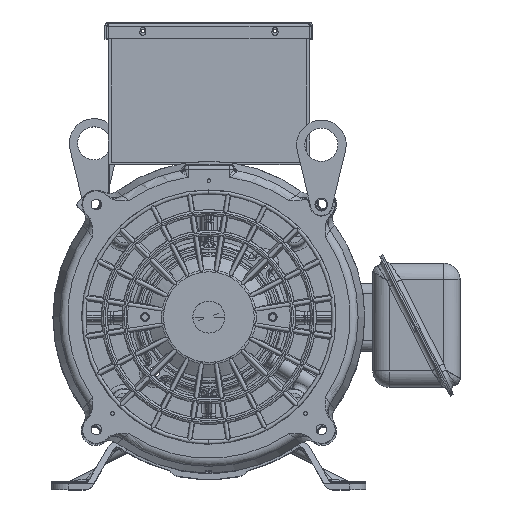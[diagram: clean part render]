
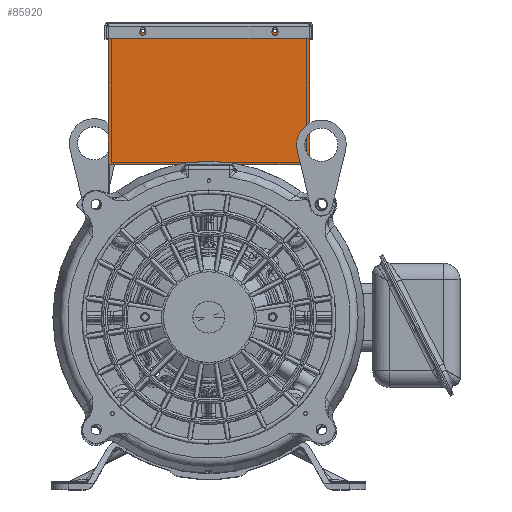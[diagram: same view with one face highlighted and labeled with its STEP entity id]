
A CAD part, top view. The second image highlights one B-rep face of the part: STEP entity #85920.
In plain terms, the highlighted planar face has unit normal (0, 0, 1) as drawn and (-1, 0, 0) by its records, which use the part's own axes.
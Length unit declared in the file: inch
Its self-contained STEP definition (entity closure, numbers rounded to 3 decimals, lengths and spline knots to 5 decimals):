
#85119=DIRECTION('',(0.,0.,1.));
#85120=VECTOR('',#85119,6.);
#85121=CARTESIAN_POINT('',(-4.485,4.25,-3.));
#85122=LINE('',#85121,#85120);
#85139=CARTESIAN_POINT('',(-4.485,0.19,2.));
#85140=DIRECTION('',(1.,0.,0.));
#85141=DIRECTION('',(0.,1.,0.));
#85142=AXIS2_PLACEMENT_3D('',#85139,#85140,#85141);
#85144=CARTESIAN_POINT('',(-4.485,0.19,2.));
#85145=DIRECTION('',(1.,0.,0.));
#85146=DIRECTION('',(0.,-1.,0.));
#85147=AXIS2_PLACEMENT_3D('',#85144,#85145,#85146);
#85149=CARTESIAN_POINT('',(-4.485,0.19,-2.));
#85150=DIRECTION('',(1.,0.,0.));
#85151=DIRECTION('',(0.,1.,0.));
#85152=AXIS2_PLACEMENT_3D('',#85149,#85150,#85151);
#85154=CARTESIAN_POINT('',(-4.485,0.19,-2.));
#85155=DIRECTION('',(1.,0.,0.));
#85156=DIRECTION('',(0.,-1.,0.));
#85157=AXIS2_PLACEMENT_3D('',#85154,#85155,#85156);
#85159=DIRECTION('',(0.,-0.669,0.743));
#85160=VECTOR('',#85159,0.04576);
#85161=CARTESIAN_POINT('',(-4.485,6.27255,3.84941));
#85162=LINE('',#85161,#85160);
#85163=DIRECTION('',(0.,-0.743,-0.669));
#85164=VECTOR('',#85163,1.25);
#85165=CARTESIAN_POINT('',(-4.485,6.24193,3.88341));
#85166=LINE('',#85165,#85164);
#85167=DIRECTION('',(0.,1.,0.));
#85168=VECTOR('',#85167,5.313);
#85169=CARTESIAN_POINT('',(-4.485,0.,3.047));
#85170=LINE('',#85169,#85168);
#85171=DIRECTION('',(0.,0.,-1.));
#85172=VECTOR('',#85171,6.094);
#85173=CARTESIAN_POINT('',(-4.485,0.,3.047));
#85174=LINE('',#85173,#85172);
#85175=DIRECTION('',(0.,-1.,0.));
#85176=VECTOR('',#85175,5.313);
#85177=CARTESIAN_POINT('',(-4.485,5.313,-3.047));
#85178=LINE('',#85177,#85176);
#85179=DIRECTION('',(0.,0.743,-0.669));
#85180=VECTOR('',#85179,1.25);
#85181=CARTESIAN_POINT('',(-4.485,5.313,-3.047));
#85182=LINE('',#85181,#85180);
#85183=DIRECTION('',(0.,0.669,0.743));
#85184=VECTOR('',#85183,0.04576);
#85185=CARTESIAN_POINT('',(-4.485,6.24193,-3.88341));
#85186=LINE('',#85185,#85184);
#85315=DIRECTION('',(0.,-0.743,-0.669));
#85316=VECTOR('',#85315,1.26942);
#85317=CARTESIAN_POINT('',(-4.485,6.27255,3.84941));
#85318=LINE('',#85317,#85316);
#85363=DIRECTION('',(0.,-1.,0.));
#85364=VECTOR('',#85363,1.07918);
#85365=CARTESIAN_POINT('',(-4.485,5.32918,3.));
#85366=LINE('',#85365,#85364);
#85399=DIRECTION('',(0.,1.,0.));
#85400=VECTOR('',#85399,1.07918);
#85401=CARTESIAN_POINT('',(-4.485,4.25,-3.));
#85402=LINE('',#85401,#85400);
#85415=DIRECTION('',(0.,0.743,-0.669));
#85416=VECTOR('',#85415,1.26942);
#85417=CARTESIAN_POINT('',(-4.485,5.32918,-3.));
#85418=LINE('',#85417,#85416);
#85563=CARTESIAN_POINT('',(-4.485,0.266,2.));
#85564=CARTESIAN_POINT('',(-4.485,0.114,2.));
#85565=VERTEX_POINT('',#85563);
#85566=VERTEX_POINT('',#85564);
#85579=CARTESIAN_POINT('',(-4.485,0.266,-2.));
#85580=CARTESIAN_POINT('',(-4.485,0.114,-2.));
#85581=VERTEX_POINT('',#85579);
#85582=VERTEX_POINT('',#85580);
#85603=CARTESIAN_POINT('',(-4.485,0.,3.047));
#85604=CARTESIAN_POINT('',(-4.485,5.313,3.047));
#85605=VERTEX_POINT('',#85603);
#85606=VERTEX_POINT('',#85604);
#85607=CARTESIAN_POINT('',(-4.485,5.313,-3.047));
#85608=CARTESIAN_POINT('',(-4.485,0.,-3.047));
#85609=VERTEX_POINT('',#85607);
#85610=VERTEX_POINT('',#85608);
#85611=CARTESIAN_POINT('',(-4.485,4.25,3.));
#85613=VERTEX_POINT('',#85611);
#85615=CARTESIAN_POINT('',(-4.485,4.25,-3.));
#85617=VERTEX_POINT('',#85615);
#85691=CARTESIAN_POINT('',(-4.485,6.27255,3.84941));
#85692=CARTESIAN_POINT('',(-4.485,6.24193,3.88341));
#85693=VERTEX_POINT('',#85691);
#85694=VERTEX_POINT('',#85692);
#85695=CARTESIAN_POINT('',(-4.485,6.24193,-3.88341));
#85696=VERTEX_POINT('',#85695);
#85697=CARTESIAN_POINT('',(-4.485,6.27255,-3.84941));
#85698=VERTEX_POINT('',#85697);
#85700=CARTESIAN_POINT('',(-4.485,5.32918,3.));
#85702=VERTEX_POINT('',#85700);
#85704=CARTESIAN_POINT('',(-4.485,5.32918,-3.));
#85706=VERTEX_POINT('',#85704);
#85879=CARTESIAN_POINT('',(-4.485,0.,-3.));
#85880=DIRECTION('',(-1.,0.,0.));
#85881=DIRECTION('',(0.,0.,1.));
#85882=AXIS2_PLACEMENT_3D('',#85879,#85880,#85881);
#85883=PLANE('',#85882);
#85884=ORIENTED_EDGE('',*,*,#85851,.T.);
#85886=ORIENTED_EDGE('',*,*,#85885,.F.);
#85888=ORIENTED_EDGE('',*,*,#85887,.F.);
#85890=ORIENTED_EDGE('',*,*,#85889,.T.);
#85892=ORIENTED_EDGE('',*,*,#85891,.T.);
#85894=ORIENTED_EDGE('',*,*,#85893,.F.);
#85895=ORIENTED_EDGE('',*,*,#85716,.T.);
#85897=ORIENTED_EDGE('',*,*,#85896,.F.);
#85899=ORIENTED_EDGE('',*,*,#85898,.T.);
#85901=ORIENTED_EDGE('',*,*,#85900,.T.);
#85903=ORIENTED_EDGE('',*,*,#85902,.F.);
#85905=ORIENTED_EDGE('',*,*,#85904,.F.);
#85906=EDGE_LOOP('',(#85884,#85886,#85888,#85890,#85892,#85894,#85895,#85897,
#85899,#85901,#85903,#85905));
#85907=FACE_OUTER_BOUND('',#85906,.F.);
#85909=ORIENTED_EDGE('',*,*,#85908,.F.);
#85911=ORIENTED_EDGE('',*,*,#85910,.F.);
#85912=EDGE_LOOP('',(#85909,#85911));
#85913=FACE_BOUND('',#85912,.F.);
#85915=ORIENTED_EDGE('',*,*,#85914,.F.);
#85917=ORIENTED_EDGE('',*,*,#85916,.F.);
#85918=EDGE_LOOP('',(#85915,#85917));
#85919=FACE_BOUND('',#85918,.F.);
#85920=ADVANCED_FACE('',(#85907,#85913,#85919),#85883,.T.);
#85143=CIRCLE('',#85142,0.076);
#85148=CIRCLE('',#85147,0.076);
#85153=CIRCLE('',#85152,0.076);
#85158=CIRCLE('',#85157,0.076);
#85716=EDGE_CURVE('',#85605,#85610,#85174,.T.);
#85851=EDGE_CURVE('',#85617,#85613,#85122,.T.);
#85885=EDGE_CURVE('',#85702,#85613,#85366,.T.);
#85887=EDGE_CURVE('',#85693,#85702,#85318,.T.);
#85889=EDGE_CURVE('',#85693,#85694,#85162,.T.);
#85891=EDGE_CURVE('',#85694,#85606,#85166,.T.);
#85893=EDGE_CURVE('',#85605,#85606,#85170,.T.);
#85896=EDGE_CURVE('',#85609,#85610,#85178,.T.);
#85898=EDGE_CURVE('',#85609,#85696,#85182,.T.);
#85900=EDGE_CURVE('',#85696,#85698,#85186,.T.);
#85902=EDGE_CURVE('',#85706,#85698,#85418,.T.);
#85904=EDGE_CURVE('',#85617,#85706,#85402,.T.);
#85908=EDGE_CURVE('',#85581,#85582,#85153,.T.);
#85910=EDGE_CURVE('',#85582,#85581,#85158,.T.);
#85914=EDGE_CURVE('',#85565,#85566,#85143,.T.);
#85916=EDGE_CURVE('',#85566,#85565,#85148,.T.);
